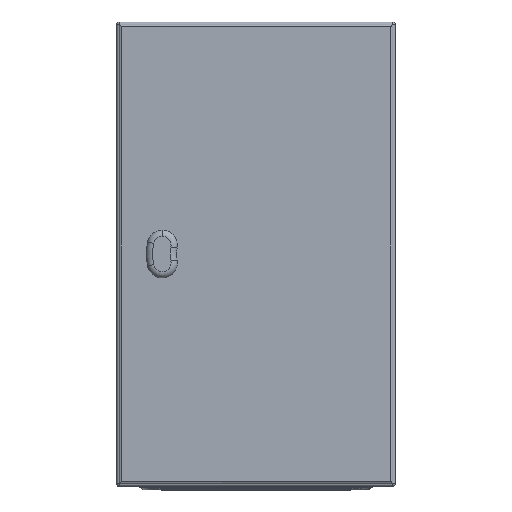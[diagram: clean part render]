
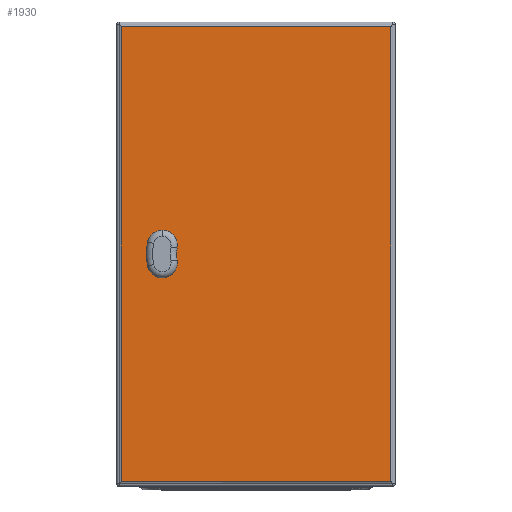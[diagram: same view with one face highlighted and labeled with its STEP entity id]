
A CAD part, top view. The second image highlights one B-rep face of the part: STEP entity #1930.
In plain terms, the highlighted planar face has unit normal (0, 0, 1) as drawn and (0, 0, -1) by its records, which use the part's own axes.
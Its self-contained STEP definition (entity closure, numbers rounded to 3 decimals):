
#8 = VERTEX_POINT ( 'NONE', #11793 ) ;
#28 = DIRECTION ( 'NONE',  ( 0., 0., -1. ) ) ;
#100 = CARTESIAN_POINT ( 'NONE',  ( 111.05, -5.056, 0. ) ) ;
#345 = CARTESIAN_POINT ( 'NONE',  ( -145., 247.5, 0. ) ) ;
#493 = VERTEX_POINT ( 'NONE', #1499 ) ;
#616 = ORIENTED_EDGE ( 'NONE', *, *, #8656, .F. ) ;
#808 = VECTOR ( 'NONE', #19733, 1000. ) ;
#912 = VERTEX_POINT ( 'NONE', #12244 ) ;
#932 = VERTEX_POINT ( 'NONE', #4475 ) ;
#1060 = AXIS2_PLACEMENT_3D ( 'NONE', #4132, #15949, #2139 ) ;
#1303 = CARTESIAN_POINT ( 'NONE',  ( 101., 0., 0. ) ) ;
#1499 = CARTESIAN_POINT ( 'NONE',  ( 90.95, 5.056, 0. ) ) ;
#1930 = ADVANCED_FACE ( 'NONE', ( #9438, #15587 ), #6399, .T. ) ;
#1935 = CARTESIAN_POINT ( 'NONE',  ( 145., -245., 0. ) ) ;
#2139 = DIRECTION ( 'NONE',  ( 1., 0., 0. ) ) ;
#2229 = DIRECTION ( 'NONE',  ( 1., 0., 0. ) ) ;
#2442 = LINE ( 'NONE', #17758, #7168 ) ;
#2505 = VERTEX_POINT ( 'NONE', #9597 ) ;
#2759 = VERTEX_POINT ( 'NONE', #17656 ) ;
#2907 = DIRECTION ( 'NONE',  ( -1., 0., 0. ) ) ;
#3023 = VECTOR ( 'NONE', #14260, 1000. ) ;
#3126 = ORIENTED_EDGE ( 'NONE', *, *, #13045, .F. ) ;
#3768 = ORIENTED_EDGE ( 'NONE', *, *, #15858, .F. ) ;
#3916 = EDGE_CURVE ( 'NONE', #2759, #912, #9894, .T. ) ;
#4132 = CARTESIAN_POINT ( 'NONE',  ( 101., 0., 0. ) ) ;
#4205 = CARTESIAN_POINT ( 'NONE',  ( 145., -247.5, 0. ) ) ;
#4339 = VECTOR ( 'NONE', #8648, 1000. ) ;
#4475 = CARTESIAN_POINT ( 'NONE',  ( 111.05, -5.056, 0. ) ) ;
#5567 = CIRCLE ( 'NONE', #6529, 11.25 ) ;
#5750 = EDGE_LOOP ( 'NONE', ( #10848, #16765, #9000, #5993 ) ) ;
#5993 = ORIENTED_EDGE ( 'NONE', *, *, #12642, .T. ) ;
#6080 = VERTEX_POINT ( 'NONE', #7043 ) ;
#6168 = DIRECTION ( 'NONE',  ( -1., 0., 0. ) ) ;
#6256 = DIRECTION ( 'NONE',  ( -1., 0., 0. ) ) ;
#6347 = DIRECTION ( 'NONE',  ( 1., 0., 0. ) ) ;
#6399 = PLANE ( 'NONE',  #12382 ) ;
#6529 = AXIS2_PLACEMENT_3D ( 'NONE', #19790, #28, #9107 ) ;
#7043 = CARTESIAN_POINT ( 'NONE',  ( 95.944, 10.05, 0. ) ) ;
#7168 = VECTOR ( 'NONE', #16131, 1000. ) ;
#7926 = CARTESIAN_POINT ( 'NONE',  ( 147.5, 247.5, 0. ) ) ;
#8396 = CARTESIAN_POINT ( 'NONE',  ( 90.95, -5.056, 0. ) ) ;
#8448 = EDGE_LOOP ( 'NONE', ( #10034, #616, #19562, #9260, #3768, #3126, #13260, #8736 ) ) ;
#8648 = DIRECTION ( 'NONE',  ( 0., -1., 0. ) ) ;
#8656 = EDGE_CURVE ( 'NONE', #2505, #10504, #12319, .T. ) ;
#8736 = ORIENTED_EDGE ( 'NONE', *, *, #14046, .F. ) ;
#8865 = CARTESIAN_POINT ( 'NONE',  ( 106.056, 10.05, 0. ) ) ;
#9000 = ORIENTED_EDGE ( 'NONE', *, *, #13806, .T. ) ;
#9107 = DIRECTION ( 'NONE',  ( 1., 0., 0. ) ) ;
#9260 = ORIENTED_EDGE ( 'NONE', *, *, #16373, .F. ) ;
#9438 = FACE_BOUND ( 'NONE', #8448, .T. ) ;
#9579 = CARTESIAN_POINT ( 'NONE',  ( 101., 0., 0. ) ) ;
#9597 = CARTESIAN_POINT ( 'NONE',  ( 106.056, -10.05, 0. ) ) ;
#9894 = LINE ( 'NONE', #16034, #18293 ) ;
#10034 = ORIENTED_EDGE ( 'NONE', *, *, #17346, .F. ) ;
#10504 = VERTEX_POINT ( 'NONE', #10957 ) ;
#10801 = LINE ( 'NONE', #100, #19114 ) ;
#10848 = ORIENTED_EDGE ( 'NONE', *, *, #19186, .T. ) ;
#10957 = CARTESIAN_POINT ( 'NONE',  ( 95.944, -10.05, 0. ) ) ;
#11019 = AXIS2_PLACEMENT_3D ( 'NONE', #9579, #11181, #6256 ) ;
#11181 = DIRECTION ( 'NONE',  ( 0., 0., -1. ) ) ;
#11674 = EDGE_CURVE ( 'NONE', #932, #2505, #15849, .T. ) ;
#11747 = DIRECTION ( 'NONE',  ( -1., 0., 0. ) ) ;
#11793 = CARTESIAN_POINT ( 'NONE',  ( 111.05, 5.056, 0. ) ) ;
#12244 = CARTESIAN_POINT ( 'NONE',  ( 145., 245., 0. ) ) ;
#12319 = LINE ( 'NONE', #17262, #12383 ) ;
#12382 = AXIS2_PLACEMENT_3D ( 'NONE', #7926, #18700, #11747 ) ;
#12383 = VECTOR ( 'NONE', #6168, 1000. ) ;
#12571 = DIRECTION ( 'NONE',  ( 0., -1., 0. ) ) ;
#12642 = EDGE_CURVE ( 'NONE', #19553, #17568, #2442, .T. ) ;
#13045 = EDGE_CURVE ( 'NONE', #6080, #16557, #15529, .T. ) ;
#13260 = ORIENTED_EDGE ( 'NONE', *, *, #18460, .F. ) ;
#13266 = LINE ( 'NONE', #4205, #4339 ) ;
#13806 = EDGE_CURVE ( 'NONE', #912, #19553, #13266, .T. ) ;
#14046 = EDGE_CURVE ( 'NONE', #19265, #493, #16616, .T. ) ;
#14074 = LINE ( 'NONE', #345, #3023 ) ;
#14205 = CARTESIAN_POINT ( 'NONE',  ( 106.056, 10.05, 0. ) ) ;
#14260 = DIRECTION ( 'NONE',  ( 0., 1., 0. ) ) ;
#14485 = CARTESIAN_POINT ( 'NONE',  ( -145., -245., 0. ) ) ;
#15489 = CARTESIAN_POINT ( 'NONE',  ( 90.95, -5.056, 0. ) ) ;
#15529 = LINE ( 'NONE', #14205, #19768 ) ;
#15587 = FACE_OUTER_BOUND ( 'NONE', #5750, .T. ) ;
#15849 = CIRCLE ( 'NONE', #11019, 11.25 ) ;
#15858 = EDGE_CURVE ( 'NONE', #16557, #8, #5567, .T. ) ;
#15949 = DIRECTION ( 'NONE',  ( 0., 0., -1. ) ) ;
#16034 = CARTESIAN_POINT ( 'NONE',  ( 147.5, 245., 0. ) ) ;
#16131 = DIRECTION ( 'NONE',  ( -1., 0., 0. ) ) ;
#16373 = EDGE_CURVE ( 'NONE', #8, #932, #10801, .T. ) ;
#16557 = VERTEX_POINT ( 'NONE', #8865 ) ;
#16616 = LINE ( 'NONE', #15489, #808 ) ;
#16765 = ORIENTED_EDGE ( 'NONE', *, *, #3916, .T. ) ;
#16866 = AXIS2_PLACEMENT_3D ( 'NONE', #1303, #19750, #2907 ) ;
#17148 = CIRCLE ( 'NONE', #1060, 11.25 ) ;
#17180 = CIRCLE ( 'NONE', #16866, 11.25 ) ;
#17262 = CARTESIAN_POINT ( 'NONE',  ( 106.056, -10.05, 0. ) ) ;
#17346 = EDGE_CURVE ( 'NONE', #10504, #19265, #17180, .T. ) ;
#17568 = VERTEX_POINT ( 'NONE', #14485 ) ;
#17656 = CARTESIAN_POINT ( 'NONE',  ( -145., 245., 0. ) ) ;
#17758 = CARTESIAN_POINT ( 'NONE',  ( -147.5, -245., 0. ) ) ;
#18293 = VECTOR ( 'NONE', #2229, 1000. ) ;
#18460 = EDGE_CURVE ( 'NONE', #493, #6080, #17148, .T. ) ;
#18700 = DIRECTION ( 'NONE',  ( 0., 0., -1. ) ) ;
#19114 = VECTOR ( 'NONE', #12571, 1000. ) ;
#19186 = EDGE_CURVE ( 'NONE', #17568, #2759, #14074, .T. ) ;
#19265 = VERTEX_POINT ( 'NONE', #8396 ) ;
#19553 = VERTEX_POINT ( 'NONE', #1935 ) ;
#19562 = ORIENTED_EDGE ( 'NONE', *, *, #11674, .F. ) ;
#19733 = DIRECTION ( 'NONE',  ( 0., 1., 0. ) ) ;
#19750 = DIRECTION ( 'NONE',  ( 0., 0., -1. ) ) ;
#19768 = VECTOR ( 'NONE', #6347, 1000. ) ;
#19790 = CARTESIAN_POINT ( 'NONE',  ( 101., 0., 0. ) ) ;
